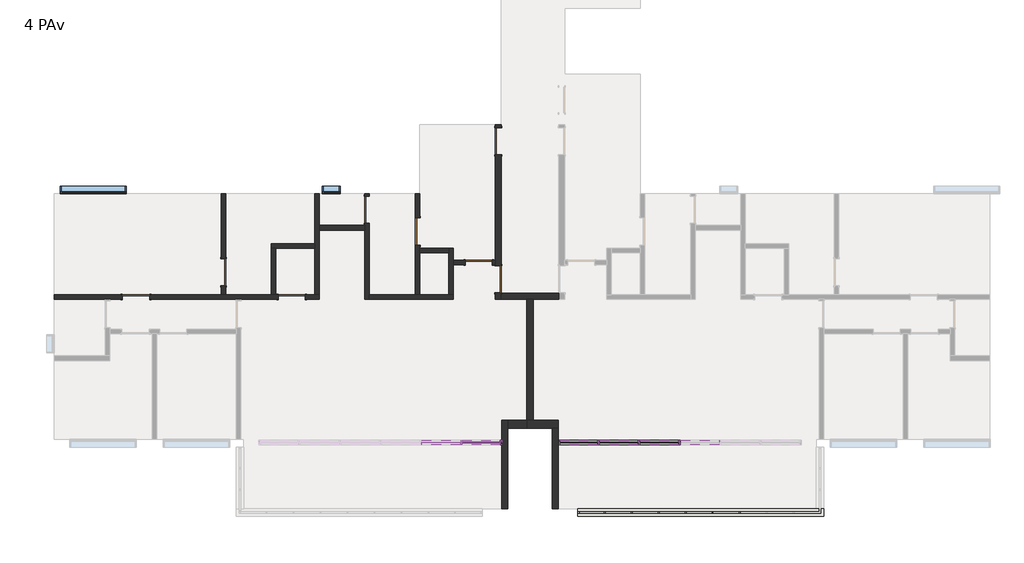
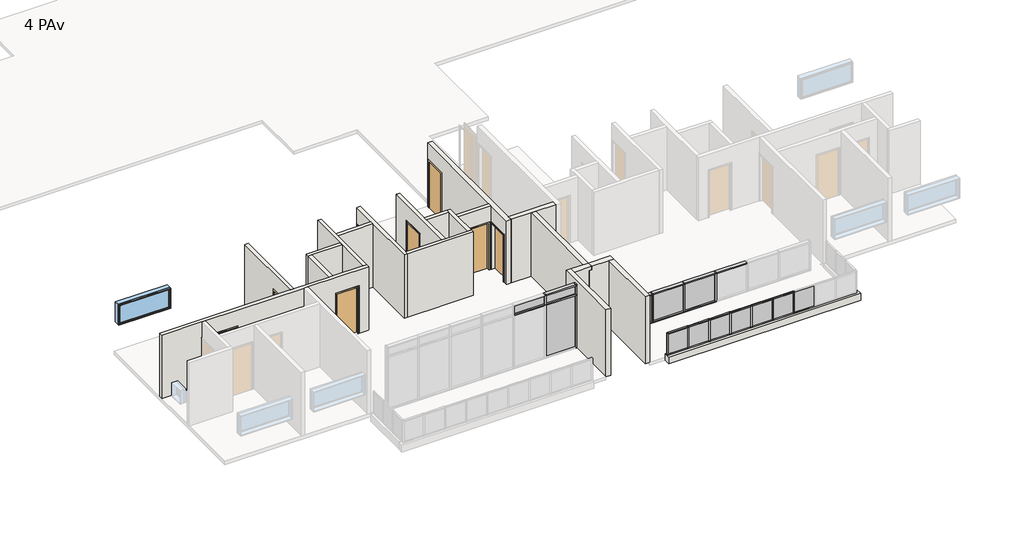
# One storey, part 2 of 6: 37 members, 20 walls, 13 plates, 8 doors, 2 windows.
"""IFC4 building model written with IfcOpenShell, lengths in millimetres."""

from ifc_helpers import new_model, si_unit, frame, origin, place, context, project, spatial, polyline, outline, extrude, faceted_brep, transform, mapped, element, save
from components import door_90_x_210_2c83007d, door_90_x_210_ee935524, door_90_x_210_565370b3, montante_retangular_50_mm_quadrado_4acded50, montante_retangular_50_mm_quadrado_237d7072, montante_retangular_50_mm_quadrado_84e40a56, montante_retangular_50_mm_quadrado_3d152aff, montante_retangular_50_x_150_mm_6217edde, montante_retangular_50_x_150_mm_a22249d7, montante_retangular_50_x_150_mm_567eccab, montante_retangular_50_x_150_mm_1ca2bba2, montante_retangular_50_x_150_mm_6abf4531, montante_retangular_50_x_150_mm_662c37b1, montante_retangular_50_x_150_mm_0a8c3443, montante_retangular_50_x_150_mm_d0db7fae, montante_retangular_50_x_150_mm_1e3c48d4, painel_do_sistema_57ceaf50, painel_do_sistema_ab0ed719, painel_do_sistema_1ecb5f42, painel_do_sistema_5ea5287b, painel_do_sistema_7730abee, painel_do_sistema_7de0e0b4, painel_do_sistema_09324d20, window_0610_x_0610_mm_da1d4716, window_220_x_90_cea65aae

model = new_model("IFC4")

# Units and contexts
model_context = context("Model", 3, world=origin())
ifc_project = project(units=[si_unit("LENGTHUNIT", "METRE", prefix="MILLI")], contexts=[model_context])

# Site, building, storey
site = spatial("IfcSite", under=ifc_project)
building = spatial("IfcBuilding", under=site)
storey = spatial("IfcBuildingStorey", under=building, Name="4 PAv", Elevation=12000.0)

# Doors
placement = place(None, origin())
door_90_x_210_shape = door_90_x_210_2c83007d(model_context)
element("IfcDoor", 1, ObjectType="M_Descarga simples : 90 x 210", at=placement, inside=storey, context=model_context, shape_type="MappedRepresentation", body=[
    mapped(door_90_x_210_shape, transform((-2076.2265742, -2546.3385375, 12000.0), x_axis=(0.0, 1.0, 0.0), y_axis=(-1.0, 0.0, 0.0), z_axis=(0.0, 0.0, 1.0))),
])
element("IfcDoor", 2, ObjectType="M_Descarga simples : 90 x 210", at=placement, inside=storey, context=model_context, shape_type="MappedRepresentation", body=[
    mapped(door_90_x_210_shape, transform((-2076.2265742, -7125.9292512, 12000.0), x_axis=(0.0, -1.0, 0.0), y_axis=(1.0, 0.0, 0.0), z_axis=(0.0, 0.0, 1.0))),
])
door_90_x_210_2_shape = door_90_x_210_ee935524(model_context)
element("IfcDoor", 3, ObjectType="M_Descarga simples : 90 x 210", at=placement, inside=storey, context=model_context, shape_type="MappedRepresentation", body=[
    mapped(door_90_x_210_2_shape, transform((-2726.2265742, -6571.3385375, 12000.0), x_axis=(1.0, 0.0, 0.0), y_axis=(0.0, 1.0, 0.0), z_axis=(0.0, 0.0, 1.0))),
])
element("IfcDoor", 4, ObjectType="M_Descarga simples : 90 x 210", at=placement, inside=storey, context=model_context, shape_type="MappedRepresentation", body=[
    mapped(door_90_x_210_2_shape, transform((-4751.2265742, -5536.3385375, 12000.0), x_axis=(0.0, 1.0, 0.0), y_axis=(-1.0, 0.0, 0.0), z_axis=(0.0, 0.0, 1.0))),
])
element("IfcDoor", 5, ObjectType="M_Descarga simples : 90 x 210", at=placement, inside=storey, context=model_context, shape_type="MappedRepresentation", body=[
    mapped(door_90_x_210_2_shape, transform((-6441.2265742, -4811.3385375, 12000.0), x_axis=(0.0, 1.0, 0.0), y_axis=(-1.0, 0.0, 0.0), z_axis=(0.0, 0.0, 1.0))),
])
element("IfcDoor", 6, ObjectType="M_Descarga simples : 90 x 210", at=placement, inside=storey, context=model_context, shape_type="MappedRepresentation", body=[
    mapped(door_90_x_210_2_shape, transform((-11191.2265742, -6886.3385375, 12000.0), x_axis=(0.0, -1.0, 0.0), y_axis=(1.0, 0.0, 0.0), z_axis=(0.0, 0.0, 1.0))),
])
door_90_x_210_3_shape = door_90_x_210_565370b3(model_context)
element("IfcDoor", 7, ObjectType="M_Descarga simples : 90 x 210", at=placement, inside=storey, context=model_context, shape_type="MappedRepresentation", body=[
    mapped(door_90_x_210_3_shape, transform((-14096.2265742, -7711.3385375, 12000.0), x_axis=(-1.0, 0.0, 0.0), y_axis=(0.0, -1.0, 0.0), z_axis=(0.0, 0.0, 1.0))),
])
element("IfcDoor", 8, ObjectType="M_Descarga simples : 90 x 210", at=placement, inside=storey, context=model_context, shape_type="MappedRepresentation", body=[
    mapped(door_90_x_210_3_shape, transform((-8936.2265742, -7711.3385375, 12000.0), x_axis=(-1.0, 0.0, 0.0), y_axis=(0.0, -1.0, 0.0), z_axis=(0.0, 0.0, 1.0))),
])

# Members
montante_retangular_50_mm_quadrado_shape = montante_retangular_50_mm_quadrado_4acded50(model_context)
element("IfcMember", 9, ObjectType="Montante retangular : 50 mm Quadrado", at=placement, inside=storey, context=model_context, shape_type="MappedRepresentation", body=[
    mapped(montante_retangular_50_mm_quadrado_shape, transform((1428.7734258, -14856.3385375, 13150.0), x_axis=(0.0, 0.0, 1.0), y_axis=(0.0, -1.0, 0.0), z_axis=(1.0, 0.0, 0.0))),
])
montante_retangular_50_mm_quadrado_2_shape = montante_retangular_50_mm_quadrado_237d7072(model_context)
element("IfcMember", 10, ObjectType="Montante retangular : 50 mm Quadrado", at=placement, inside=storey, context=model_context, shape_type="MappedRepresentation", body=[
    mapped(montante_retangular_50_mm_quadrado_2_shape, transform((2323.7734258, -14856.3385375, 13150.0), x_axis=(0.0, 0.0, 1.0), y_axis=(0.0, -1.0, 0.0), z_axis=(1.0, 0.0, 0.0))),
])
element("IfcMember", 11, ObjectType="Montante retangular : 50 mm Quadrado", at=placement, inside=storey, context=model_context, shape_type="MappedRepresentation", body=[
    mapped(montante_retangular_50_mm_quadrado_2_shape, transform((3218.7734258, -14856.3385375, 13150.0), x_axis=(0.0, 0.0, 1.0), y_axis=(0.0, -1.0, 0.0), z_axis=(1.0, 0.0, 0.0))),
])
element("IfcMember", 12, ObjectType="Montante retangular : 50 mm Quadrado", at=placement, inside=storey, context=model_context, shape_type="MappedRepresentation", body=[
    mapped(montante_retangular_50_mm_quadrado_2_shape, transform((4113.7734258, -14856.3385375, 13150.0), x_axis=(0.0, 0.0, 1.0), y_axis=(0.0, -1.0, 0.0), z_axis=(1.0, 0.0, 0.0))),
])
element("IfcMember", 13, ObjectType="Montante retangular : 50 mm Quadrado", at=placement, inside=storey, context=model_context, shape_type="MappedRepresentation", body=[
    mapped(montante_retangular_50_mm_quadrado_2_shape, transform((5008.7734258, -14856.3385375, 13150.0), x_axis=(0.0, 0.0, 1.0), y_axis=(0.0, -1.0, 0.0), z_axis=(1.0, 0.0, 0.0))),
])
element("IfcMember", 14, ObjectType="Montante retangular : 50 mm Quadrado", at=placement, inside=storey, context=model_context, shape_type="MappedRepresentation", body=[
    mapped(montante_retangular_50_mm_quadrado_2_shape, transform((5903.7734258, -14856.3385375, 13150.0), x_axis=(0.0, 0.0, 1.0), y_axis=(0.0, -1.0, 0.0), z_axis=(1.0, 0.0, 0.0))),
])
element("IfcMember", 15, ObjectType="Montante retangular : 50 mm Quadrado", at=placement, inside=storey, context=model_context, shape_type="MappedRepresentation", body=[
    mapped(montante_retangular_50_mm_quadrado_shape, transform((608.7734258, -14856.3385375, 12150.0), x_axis=(0.0, 0.0, -1.0), y_axis=(0.0, -1.0, 0.0), z_axis=(-1.0, 0.0, 0.0))),
])
element("IfcMember", 16, ObjectType="Montante retangular : 50 mm Quadrado", at=placement, inside=storey, context=model_context, shape_type="MappedRepresentation", body=[
    mapped(montante_retangular_50_mm_quadrado_2_shape, transform((1478.7734258, -14856.3385375, 12150.0), x_axis=(0.0, 0.0, -1.0), y_axis=(0.0, -1.0, 0.0), z_axis=(-1.0, 0.0, 0.0))),
])
element("IfcMember", 17, ObjectType="Montante retangular : 50 mm Quadrado", at=placement, inside=storey, context=model_context, shape_type="MappedRepresentation", body=[
    mapped(montante_retangular_50_mm_quadrado_2_shape, transform((2373.7734258, -14856.3385375, 12150.0), x_axis=(0.0, 0.0, -1.0), y_axis=(0.0, -1.0, 0.0), z_axis=(-1.0, 0.0, 0.0))),
])
element("IfcMember", 18, ObjectType="Montante retangular : 50 mm Quadrado", at=placement, inside=storey, context=model_context, shape_type="MappedRepresentation", body=[
    mapped(montante_retangular_50_mm_quadrado_2_shape, transform((3268.7734258, -14856.3385375, 12150.0), x_axis=(0.0, 0.0, -1.0), y_axis=(0.0, -1.0, 0.0), z_axis=(-1.0, 0.0, 0.0))),
])
element("IfcMember", 19, ObjectType="Montante retangular : 50 mm Quadrado", at=placement, inside=storey, context=model_context, shape_type="MappedRepresentation", body=[
    mapped(montante_retangular_50_mm_quadrado_2_shape, transform((4163.7734258, -14856.3385375, 12150.0), x_axis=(0.0, 0.0, -1.0), y_axis=(0.0, -1.0, 0.0), z_axis=(-1.0, 0.0, 0.0))),
])
element("IfcMember", 20, ObjectType="Montante retangular : 50 mm Quadrado", at=placement, inside=storey, context=model_context, shape_type="MappedRepresentation", body=[
    mapped(montante_retangular_50_mm_quadrado_2_shape, transform((5058.7734258, -14856.3385375, 12150.0), x_axis=(0.0, 0.0, -1.0), y_axis=(0.0, -1.0, 0.0), z_axis=(-1.0, 0.0, 0.0))),
])
element("IfcMember", 21, ObjectType="Montante retangular : 50 mm Quadrado", at=placement, inside=storey, context=model_context, shape_type="MappedRepresentation", body=[
    mapped(montante_retangular_50_mm_quadrado_2_shape, transform((5953.7734258, -14856.3385375, 12150.0), x_axis=(0.0, 0.0, -1.0), y_axis=(0.0, -1.0, 0.0), z_axis=(-1.0, 0.0, 0.0))),
])
montante_retangular_50_mm_quadrado_3_shape = montante_retangular_50_mm_quadrado_84e40a56(model_context)
element("IfcMember", 22, ObjectType="Montante retangular : 50 mm Quadrado", at=placement, inside=storey, context=model_context, shape_type="MappedRepresentation", body=[
    mapped(montante_retangular_50_mm_quadrado_3_shape, transform((1453.7734258, -14856.3385375, 12150.0), x_axis=(1.0, 0.0, 0.0), y_axis=(0.0, -1.0, 0.0), z_axis=(0.0, 0.0, -1.0))),
])
element("IfcMember", 23, ObjectType="Montante retangular : 50 mm Quadrado", at=placement, inside=storey, context=model_context, shape_type="MappedRepresentation", body=[
    mapped(montante_retangular_50_mm_quadrado_3_shape, transform((2348.7734258, -14856.3385375, 12150.0), x_axis=(1.0, 0.0, 0.0), y_axis=(0.0, -1.0, 0.0), z_axis=(0.0, 0.0, -1.0))),
])
element("IfcMember", 24, ObjectType="Montante retangular : 50 mm Quadrado", at=placement, inside=storey, context=model_context, shape_type="MappedRepresentation", body=[
    mapped(montante_retangular_50_mm_quadrado_3_shape, transform((3243.7734258, -14856.3385375, 12150.0), x_axis=(1.0, 0.0, 0.0), y_axis=(0.0, -1.0, 0.0), z_axis=(0.0, 0.0, -1.0))),
])
element("IfcMember", 25, ObjectType="Montante retangular : 50 mm Quadrado", at=placement, inside=storey, context=model_context, shape_type="MappedRepresentation", body=[
    mapped(montante_retangular_50_mm_quadrado_3_shape, transform((4138.7734258, -14856.3385375, 12150.0), x_axis=(1.0, 0.0, 0.0), y_axis=(0.0, -1.0, 0.0), z_axis=(0.0, 0.0, -1.0))),
])
element("IfcMember", 26, ObjectType="Montante retangular : 50 mm Quadrado", at=placement, inside=storey, context=model_context, shape_type="MappedRepresentation", body=[
    mapped(montante_retangular_50_mm_quadrado_3_shape, transform((5033.7734258, -14856.3385375, 12150.0), x_axis=(1.0, 0.0, 0.0), y_axis=(0.0, -1.0, 0.0), z_axis=(0.0, 0.0, -1.0))),
])
element("IfcMember", 27, ObjectType="Montante retangular : 50 mm Quadrado", at=placement, inside=storey, context=model_context, shape_type="MappedRepresentation", body=[
    mapped(montante_retangular_50_mm_quadrado_3_shape, transform((5928.7734258, -14856.3385375, 12150.0), x_axis=(1.0, 0.0, 0.0), y_axis=(0.0, -1.0, 0.0), z_axis=(0.0, 0.0, -1.0))),
])
montante_retangular_50_mm_quadrado_4_shape = montante_retangular_50_mm_quadrado_3d152aff(model_context)
element("IfcMember", 28, ObjectType="Montante retangular : 50 mm Quadrado", at=placement, inside=storey, context=model_context, shape_type="MappedRepresentation", body=[
    mapped(montante_retangular_50_mm_quadrado_4_shape, transform((558.7734258, -14856.3385375, 13150.0), x_axis=(-1.0, 0.0, 0.0), y_axis=(0.0, -1.0, 0.0), z_axis=(0.0, 0.0, 1.0))),
])
montante_retangular_50_x_150_mm_shape = montante_retangular_50_x_150_mm_6217edde(model_context)
element("IfcMember", 29, ObjectType="Montante retangular : 50 x 150 mm", at=placement, inside=storey, context=model_context, shape_type="MappedRepresentation", body=[
    mapped(montante_retangular_50_x_150_mm_shape, transform((-2011.2265742, -12536.3385375, 14850.0), x_axis=(0.0, 0.0, 1.0), y_axis=(0.0, -1.0, 0.0), z_axis=(1.0, 0.0, 0.0))),
])
element("IfcMember", 30, ObjectType="Montante retangular : 50 x 150 mm", at=placement, inside=storey, context=model_context, shape_type="MappedRepresentation", body=[
    mapped(montante_retangular_50_x_150_mm_shape, transform((-41.2265742, -12536.3385375, 13300.0), x_axis=(0.0, 0.0, 1.0), y_axis=(0.0, 1.0, 0.0), z_axis=(-1.0, 0.0, 0.0))),
])
montante_retangular_50_x_150_mm_2_shape = montante_retangular_50_x_150_mm_a22249d7(model_context)
element("IfcMember", 31, ObjectType="Montante retangular : 50 x 150 mm", at=placement, inside=storey, context=model_context, shape_type="MappedRepresentation", body=[
    mapped(montante_retangular_50_x_150_mm_2_shape, transform((3966.2734258, -12536.3385375, 13300.0), x_axis=(0.0, 0.0, 1.0), y_axis=(0.0, 1.0, 0.0), z_axis=(-1.0, 0.0, 0.0))),
])
element("IfcMember", 32, ObjectType="Montante retangular : 50 x 150 mm", at=placement, inside=storey, context=model_context, shape_type="MappedRepresentation", body=[
    mapped(montante_retangular_50_x_150_mm_2_shape, transform((2622.1067592, -12536.3385375, 13300.0), x_axis=(0.0, 0.0, 1.0), y_axis=(0.0, 1.0, 0.0), z_axis=(-1.0, 0.0, 0.0))),
])
element("IfcMember", 33, ObjectType="Montante retangular : 50 x 150 mm", at=placement, inside=storey, context=model_context, shape_type="MappedRepresentation", body=[
    mapped(montante_retangular_50_x_150_mm_2_shape, transform((1277.9400925, -12536.3385375, 13300.0), x_axis=(0.0, 0.0, 1.0), y_axis=(0.0, 1.0, 0.0), z_axis=(-1.0, 0.0, 0.0))),
])
element("IfcMember", 34, ObjectType="Montante retangular : 50 x 150 mm", at=placement, inside=storey, context=model_context, shape_type="MappedRepresentation", body=[
    mapped(montante_retangular_50_x_150_mm_shape, transform((1227.9400925, -12536.3385375, 12000.0), x_axis=(0.0, 0.0, -1.0), y_axis=(0.0, 1.0, 0.0), z_axis=(1.0, 0.0, 0.0))),
])
element("IfcMember", 35, ObjectType="Montante retangular : 50 x 150 mm", at=placement, inside=storey, context=model_context, shape_type="MappedRepresentation", body=[
    mapped(montante_retangular_50_x_150_mm_2_shape, transform((3916.2734258, -12536.3385375, 12000.0), x_axis=(0.0, 0.0, -1.0), y_axis=(0.0, 1.0, 0.0), z_axis=(1.0, 0.0, 0.0))),
])
element("IfcMember", 36, ObjectType="Montante retangular : 50 x 150 mm", at=placement, inside=storey, context=model_context, shape_type="MappedRepresentation", body=[
    mapped(montante_retangular_50_x_150_mm_2_shape, transform((2572.1067592, -12536.3385375, 12000.0), x_axis=(0.0, 0.0, -1.0), y_axis=(0.0, 1.0, 0.0), z_axis=(1.0, 0.0, 0.0))),
])
montante_retangular_50_x_150_mm_3_shape = montante_retangular_50_x_150_mm_567eccab(model_context)
element("IfcMember", 37, ObjectType="Montante retangular : 50 x 150 mm", at=placement, inside=storey, context=model_context, shape_type="MappedRepresentation", body=[
    mapped(montante_retangular_50_x_150_mm_3_shape, transform((-3305.3932408, -12536.3385375, 14400.0), x_axis=(1.0, 0.0, 0.0), y_axis=(0.0, -1.0, 0.0), z_axis=(0.0, 0.0, -1.0))),
])
montante_retangular_50_x_150_mm_4_shape = montante_retangular_50_x_150_mm_1ca2bba2(model_context)
element("IfcMember", 38, ObjectType="Montante retangular : 50 x 150 mm", at=placement, inside=storey, context=model_context, shape_type="MappedRepresentation", body=[
    mapped(montante_retangular_50_x_150_mm_4_shape, transform((-2011.2265742, -12536.3385375, 14400.0), x_axis=(0.0, 0.0, 1.0), y_axis=(0.0, -1.0, 0.0), z_axis=(1.0, 0.0, 0.0))),
])
montante_retangular_50_x_150_mm_5_shape = montante_retangular_50_x_150_mm_6abf4531(model_context)
element("IfcMember", 39, ObjectType="Montante retangular : 50 x 150 mm", at=placement, inside=storey, context=model_context, shape_type="MappedRepresentation", body=[
    mapped(montante_retangular_50_x_150_mm_5_shape, transform((-3330.3932408, -12536.3385375, 14400.0), x_axis=(0.0, 0.0, 1.0), y_axis=(0.0, -1.0, 0.0), z_axis=(1.0, 0.0, 0.0))),
])
montante_retangular_50_x_150_mm_6_shape = montante_retangular_50_x_150_mm_662c37b1(model_context)
element("IfcMember", 40, ObjectType="Montante retangular : 50 x 150 mm", at=placement, inside=storey, context=model_context, shape_type="MappedRepresentation", body=[
    mapped(montante_retangular_50_x_150_mm_6_shape, transform((-1961.2265742, -12536.3385375, 12000.0), x_axis=(1.0, 0.0, 0.0), y_axis=(0.0, -1.0, 0.0), z_axis=(0.0, 0.0, -1.0))),
])
montante_retangular_50_x_150_mm_7_shape = montante_retangular_50_x_150_mm_0a8c3443(model_context)
element("IfcMember", 41, ObjectType="Montante retangular : 50 x 150 mm", at=placement, inside=storey, context=model_context, shape_type="MappedRepresentation", body=[
    mapped(montante_retangular_50_x_150_mm_7_shape, transform((-1961.2265742, -12536.3385375, 14400.0), x_axis=(1.0, 0.0, 0.0), y_axis=(0.0, -1.0, 0.0), z_axis=(0.0, 0.0, -1.0))),
])
montante_retangular_50_x_150_mm_8_shape = montante_retangular_50_x_150_mm_d0db7fae(model_context)
element("IfcMember", 42, ObjectType="Montante retangular : 50 x 150 mm", at=placement, inside=storey, context=model_context, shape_type="MappedRepresentation", body=[
    mapped(montante_retangular_50_x_150_mm_8_shape, transform((3941.2734258, -12536.3385375, 12000.0), x_axis=(-1.0, 0.0, 0.0), y_axis=(0.0, 1.0, 0.0), z_axis=(0.0, 0.0, -1.0))),
])
element("IfcMember", 43, ObjectType="Montante retangular : 50 x 150 mm", at=placement, inside=storey, context=model_context, shape_type="MappedRepresentation", body=[
    mapped(montante_retangular_50_x_150_mm_8_shape, transform((2597.1067592, -12536.3385375, 12000.0), x_axis=(-1.0, 0.0, 0.0), y_axis=(0.0, 1.0, 0.0), z_axis=(0.0, 0.0, -1.0))),
])
element("IfcMember", 44, ObjectType="Montante retangular : 50 x 150 mm", at=placement, inside=storey, context=model_context, shape_type="MappedRepresentation", body=[
    mapped(montante_retangular_50_x_150_mm_8_shape, transform((1252.9400925, -12536.3385375, 12000.0), x_axis=(-1.0, 0.0, 0.0), y_axis=(0.0, 1.0, 0.0), z_axis=(0.0, 0.0, -1.0))),
])
montante_retangular_50_x_150_mm_9_shape = montante_retangular_50_x_150_mm_1e3c48d4(model_context)
element("IfcMember", 45, ObjectType="Montante retangular : 50 x 150 mm", at=placement, inside=storey, context=model_context, shape_type="MappedRepresentation", body=[
    mapped(montante_retangular_50_x_150_mm_9_shape, transform((-91.2265742, -12536.3385375, 12000.0), x_axis=(-1.0, 0.0, 0.0), y_axis=(0.0, 1.0, 0.0), z_axis=(0.0, 0.0, -1.0))),
])

# Plates
painel_do_sistema_shape = painel_do_sistema_57ceaf50(model_context)
element("IfcPlate", 46, ObjectType="Painel do sistema : Envidraçado", at=placement, inside=storey, context=model_context, shape_type="MappedRepresentation", body=[
    mapped(painel_do_sistema_shape, transform((1018.7734258, -14856.3385375, 12200.0), x_axis=(1.0, 0.0, 0.0), y_axis=(0.0, 1.0, 0.0), z_axis=(0.0, 0.0, 1.0))),
])
painel_do_sistema_2_shape = painel_do_sistema_ab0ed719(model_context)
element("IfcPlate", 47, ObjectType="Painel do sistema : Envidraçado", at=placement, inside=storey, context=model_context, shape_type="MappedRepresentation", body=[
    mapped(painel_do_sistema_2_shape, transform((1901.2734258, -14856.3385375, 12200.0), x_axis=(1.0, 0.0, 0.0), y_axis=(0.0, 1.0, 0.0), z_axis=(0.0, 0.0, 1.0))),
])
element("IfcPlate", 48, ObjectType="Painel do sistema : Envidraçado", at=placement, inside=storey, context=model_context, shape_type="MappedRepresentation", body=[
    mapped(painel_do_sistema_2_shape, transform((2796.2734258, -14856.3385375, 12200.0), x_axis=(1.0, 0.0, 0.0), y_axis=(0.0, 1.0, 0.0), z_axis=(0.0, 0.0, 1.0))),
])
element("IfcPlate", 49, ObjectType="Painel do sistema : Envidraçado", at=placement, inside=storey, context=model_context, shape_type="MappedRepresentation", body=[
    mapped(painel_do_sistema_2_shape, transform((3691.2734258, -14856.3385375, 12200.0), x_axis=(1.0, 0.0, 0.0), y_axis=(0.0, 1.0, 0.0), z_axis=(0.0, 0.0, 1.0))),
])
element("IfcPlate", 50, ObjectType="Painel do sistema : Envidraçado", at=placement, inside=storey, context=model_context, shape_type="MappedRepresentation", body=[
    mapped(painel_do_sistema_2_shape, transform((4586.2734258, -14856.3385375, 12200.0), x_axis=(1.0, 0.0, 0.0), y_axis=(0.0, 1.0, 0.0), z_axis=(0.0, 0.0, 1.0))),
])
element("IfcPlate", 51, ObjectType="Painel do sistema : Envidraçado", at=placement, inside=storey, context=model_context, shape_type="MappedRepresentation", body=[
    mapped(painel_do_sistema_2_shape, transform((5481.2734258, -14856.3385375, 12200.0), x_axis=(1.0, 0.0, 0.0), y_axis=(0.0, 1.0, 0.0), z_axis=(0.0, 0.0, 1.0))),
])
element("IfcPlate", 52, ObjectType="Painel do sistema : Envidraçado", at=placement, inside=storey, context=model_context, shape_type="MappedRepresentation", body=[
    mapped(painel_do_sistema_2_shape, transform((6376.2734258, -14856.3385375, 12200.0), x_axis=(1.0, 0.0, 0.0), y_axis=(0.0, 1.0, 0.0), z_axis=(0.0, 0.0, 1.0))),
])
painel_do_sistema_3_shape = painel_do_sistema_1ecb5f42(model_context)
element("IfcPlate", 53, ObjectType="Painel do sistema : Envidraçado", at=placement, inside=storey, context=model_context, shape_type="MappedRepresentation", body=[
    mapped(painel_do_sistema_3_shape, transform((-2645.8099075, -12536.3385375, 12050.0), x_axis=(1.0, 0.0, 0.0), y_axis=(0.0, 1.0, 0.0), z_axis=(0.0, 0.0, 1.0))),
])
painel_do_sistema_4_shape = painel_do_sistema_5ea5287b(model_context)
element("IfcPlate", 54, ObjectType="Painel do sistema : Envidraçado", at=placement, inside=storey, context=model_context, shape_type="MappedRepresentation", body=[
    mapped(painel_do_sistema_4_shape, transform((-2645.8099075, -12536.3385375, 14425.0), x_axis=(1.0, 0.0, 0.0), y_axis=(0.0, 1.0, 0.0), z_axis=(0.0, 0.0, 1.0))),
])
painel_do_sistema_5_shape = painel_do_sistema_7730abee(model_context)
element("IfcPlate", 55, ObjectType="Painel do sistema : Envidraçado", at=placement, inside=storey, context=model_context, shape_type="MappedRepresentation", body=[
    mapped(painel_do_sistema_5_shape, transform((-3977.4765742, -12536.3385375, 14425.0), x_axis=(1.0, 0.0, 0.0), y_axis=(0.0, 1.0, 0.0), z_axis=(0.0, 0.0, 1.0))),
])
painel_do_sistema_6_shape = painel_do_sistema_7de0e0b4(model_context)
element("IfcPlate", 56, ObjectType="Painel do sistema : Envidraçado", at=placement, inside=storey, context=model_context, shape_type="MappedRepresentation", body=[
    mapped(painel_do_sistema_6_shape, transform((593.3567592, -12536.3385375, 12050.0), x_axis=(-1.0, 0.0, 0.0), y_axis=(0.0, -1.0, 0.0), z_axis=(0.0, 0.0, 1.0))),
])
painel_do_sistema_7_shape = painel_do_sistema_09324d20(model_context)
element("IfcPlate", 57, ObjectType="Painel do sistema : Envidraçado", at=placement, inside=storey, context=model_context, shape_type="MappedRepresentation", body=[
    mapped(painel_do_sistema_7_shape, transform((3269.1900925, -12536.3385375, 12050.0), x_axis=(-1.0, 0.0, 0.0), y_axis=(0.0, -1.0, 0.0), z_axis=(0.0, 0.0, 1.0))),
])
element("IfcPlate", 58, ObjectType="Painel do sistema : Envidraçado", at=placement, inside=storey, context=model_context, shape_type="MappedRepresentation", body=[
    mapped(painel_do_sistema_7_shape, transform((1925.0234258, -12536.3385375, 12050.0), x_axis=(-1.0, 0.0, 0.0), y_axis=(0.0, -1.0, 0.0), z_axis=(0.0, 0.0, 1.0))),
])

# Walls
element("IfcWall", 59, ObjectType="Exeterna 25", at=placement, inside=storey, context=model_context, shape_type="Brep", body=[
    faceted_brep([(558.7734258, -14981.3385375, 11850.0), (8713.7734258, -14981.3385375, 11850.0), (8713.7734258, -14981.3385375, 12150.0), (558.7734258, -14981.3385375, 12150.0), (558.7734258, -14731.3385375, 11850.0), (558.7734258, -14731.3385375, 12150.0), (8463.7734258, -14731.3385375, 12150.0), (8713.7734258, -14731.3385375, 12150.0), (8713.7734258, -14731.3385375, 11850.0), (8463.7734258, -14731.3385375, 11850.0)], [[[0, 1, 2, 3]], [[4, 5, 6, 7, 8, 9]], [[1, 0, 4, 9, 8]], [[3, 2, 7, 6, 5]], [[0, 3, 5, 4]], [[2, 1, 8, 7]]]),
])
element("IfcWall", 60, ObjectType="Exeterna 25", at=placement, inside=storey, context=model_context, shape_type="Brep", body=[
    faceted_brep([(-1126.2265742, -12056.3385375, 12000.0), (-291.2265742, -12056.3385375, 12000.0), (-91.2265742, -12056.3385375, 12000.0), (-91.2265742, -12056.3385375, 15000.0), (-291.2265742, -12056.3385375, 15000.0), (-1026.2265742, -12056.3385375, 15000.0), (-1026.2265742, -12056.3385375, 14850.0), (-1126.2265742, -12056.3385375, 14850.0), (-1126.2265742, -11806.3385375, 12000.0), (-1126.2265742, -11806.3385375, 14850.0), (-1026.2265742, -11806.3385375, 14850.0), (-1026.2265742, -11806.3385375, 15000.0), (-91.2265742, -11806.3385375, 15000.0), (-91.2265742, -11806.3385375, 12000.0), (-926.2265742, -11806.3385375, 12000.0)], [[[0, 1, 2, 3, 4, 5, 6, 7]], [[8, 9, 10, 11, 12, 13, 14]], [[2, 1, 0, 8, 14, 13]], [[5, 4, 3, 12, 11]], [[3, 2, 13, 12]], [[6, 5, 11, 10]], [[6, 10, 9, 7]], [[0, 7, 9, 8]]]),
])
element("IfcWall", 61, ObjectType="Exeterna 25", at=placement, inside=storey, context=model_context, shape_type="SweptSolid", body=[
    extrude(outline(polyline([(12000.0, -1126.2265742), (14850.0, -1126.2265742), (14850.0, -1026.2265742), (15000.0, -1026.2265742), (15000.0, -1761.2265742), (12000.0, -1761.2265742), (12000.0, -1126.2265742)])), frame((0.0, -12056.3385375, 0.0), z_axis=(0.0, 1.0, 0.0), x_axis=(0.0, 0.0, 1.0)), (0.0, 0.0, 1.0), 250.0),
])
element("IfcWall", 62, ObjectType="Interna 15", at=placement, inside=storey, context=model_context, shape_type="Brep", body=[
    faceted_brep([(-13646.2265742, -7786.3385375, 12000.0), (-10766.2265742, -7786.3385375, 12000.0), (-10616.2265742, -7786.3385375, 12000.0), (-9386.2265742, -7786.3385375, 12000.0), (-9386.2265742, -7786.3385375, 14100.0), (-8486.2265742, -7786.3385375, 14100.0), (-8486.2265742, -7786.3385375, 12000.0), (-8016.2265742, -7786.3385375, 12000.0), (-8016.2265742, -7786.3385375, 14850.0), (-10616.2265742, -7786.3385375, 14850.0), (-10766.2265742, -7786.3385375, 14850.0), (-14966.2265742, -7786.3385375, 14850.0), (-15116.2265742, -7786.3385375, 14850.0), (-16816.2265742, -7786.3385375, 14850.0), (-16816.2265742, -7786.3385375, 12000.0), (-15116.2265742, -7786.3385375, 12000.0), (-14966.2265742, -7786.3385375, 12000.0), (-14546.2265742, -7786.3385375, 12000.0), (-14546.2265742, -7786.3385375, 14100.0), (-13646.2265742, -7786.3385375, 14100.0), (-9386.2265742, -7636.3385375, 14100.0), (-9386.2265742, -7636.3385375, 12000.0), (-9466.2265742, -7636.3385375, 12000.0), (-9616.2265742, -7636.3385375, 12000.0), (-11116.2265742, -7636.3385375, 12000.0), (-11266.2265742, -7636.3385375, 12000.0), (-13646.2265742, -7636.3385375, 12000.0), (-13646.2265742, -7636.3385375, 14100.0), (-14546.2265742, -7636.3385375, 14100.0), (-14546.2265742, -7636.3385375, 12000.0), (-16816.2265742, -7636.3385375, 12000.0), (-16816.2265742, -7636.3385375, 14850.0), (-11266.2265742, -7636.3385375, 14850.0), (-11116.2265742, -7636.3385375, 14850.0), (-9616.2265742, -7636.3385375, 14850.0), (-9466.2265742, -7636.3385375, 14850.0), (-8166.2265742, -7636.3385375, 14850.0), (-8016.2265742, -7636.3385375, 14850.0), (-8016.2265742, -7636.3385375, 12000.0), (-8166.2265742, -7636.3385375, 12000.0), (-8486.2265742, -7636.3385375, 12000.0), (-8486.2265742, -7636.3385375, 14100.0)], [[[0, 1, 2, 3, 4, 5, 6, 7, 8, 9, 10, 11, 12, 13, 14, 15, 16, 17, 18, 19]], [[20, 21, 22, 23, 24, 25, 26, 27, 28, 29, 30, 31, 32, 33, 34, 35, 36, 37, 38, 39, 40, 41]], [[30, 29, 17, 16, 15, 14]], [[40, 39, 38, 7, 6]], [[26, 25, 24, 23, 22, 21, 3, 2, 1, 0]], [[13, 12, 11, 10, 9, 8, 37, 36, 35, 34, 33, 32, 31]], [[8, 7, 38, 37]], [[18, 17, 29, 28]], [[19, 18, 28, 27]], [[0, 19, 27, 26]], [[4, 3, 21, 20]], [[5, 4, 20, 41]], [[6, 5, 41, 40]], [[14, 13, 31, 30]]]),
])
element("IfcWall", 63, ObjectType="Interna 15", at=placement, inside=storey, context=model_context, shape_type="Brep", body=[
    faceted_brep([(-8016.2265742, -7636.3385375, 12000.0), (-8016.2265742, -5486.3385375, 12000.0), (-8016.2265742, -5336.3385375, 12000.0), (-8016.2265742, -4286.3385375, 12000.0), (-8016.2265742, -4286.3385375, 14850.0), (-8016.2265742, -5336.3385375, 14850.0), (-8016.2265742, -5486.3385375, 14850.0), (-8016.2265742, -7636.3385375, 14850.0), (-8166.2265742, -7636.3385375, 12000.0), (-8166.2265742, -7636.3385375, 14850.0), (-8166.2265742, -6086.3385375, 14850.0), (-8166.2265742, -5936.3385375, 14850.0), (-8166.2265742, -4286.3385375, 14850.0), (-8166.2265742, -4286.3385375, 12000.0), (-8166.2265742, -5936.3385375, 12000.0), (-8166.2265742, -6086.3385375, 12000.0)], [[[0, 1, 2, 3, 4, 5, 6, 7]], [[8, 9, 10, 11, 12, 13, 14, 15]], [[3, 2, 1, 0, 8, 15, 14, 13]], [[7, 6, 5, 4, 12, 11, 10, 9]], [[0, 7, 9, 8]], [[4, 3, 13, 12]]]),
])
element("IfcWall", 64, ObjectType="Interna 15", at=placement, inside=storey, context=model_context, shape_type="Brep", body=[
    faceted_brep([(-8166.2265742, -5936.3385375, 12000.0), (-9616.2265742, -5936.3385375, 12000.0), (-9616.2265742, -5936.3385375, 14850.0), (-8166.2265742, -5936.3385375, 14850.0), (-8166.2265742, -6086.3385375, 12000.0), (-8166.2265742, -6086.3385375, 14850.0), (-9466.2265742, -6086.3385375, 14850.0), (-9616.2265742, -6086.3385375, 14850.0), (-9616.2265742, -6086.3385375, 12000.0), (-9466.2265742, -6086.3385375, 12000.0)], [[[0, 1, 2, 3]], [[4, 5, 6, 7, 8, 9]], [[1, 0, 4, 9, 8]], [[3, 2, 7, 6, 5]], [[0, 3, 5, 4]], [[2, 1, 8, 7]]]),
])
element("IfcWall", 65, ObjectType="Interna 15", at=placement, inside=storey, context=model_context, shape_type="SweptSolid", body=[
    extrude(outline(polyline([(-9616.2265742, -7636.3385375), (-9616.2265742, -6086.3385375), (-9466.2265742, -6086.3385375), (-9466.2265742, -7636.3385375), (-9616.2265742, -7636.3385375)])), frame((0.0, 0.0, 12000.0), z_axis=(0.0, 0.0, 1.0), x_axis=(1.0, 0.0, 0.0)), (0.0, 0.0, 1.0), 2850.0),
])
element("IfcWall", 66, ObjectType="Interna 15", at=placement, inside=storey, context=model_context, shape_type="SweptSolid", body=[
    extrude(outline(polyline([(-7336.3385375, 14100.0), (-7336.3385375, 12000.0), (-7636.3385375, 12000.0), (-7636.3385375, 14850.0), (-4286.3385375, 14850.0), (-4286.3385375, 12000.0), (-6436.3385375, 12000.0), (-6436.3385375, 14100.0), (-7336.3385375, 14100.0)])), frame((-11266.2265742, 0.0, 0.0), z_axis=(1.0, 0.0, 0.0), x_axis=(0.0, 1.0, 0.0)), (0.0, 0.0, 1.0), 150.0),
])
element("IfcWall", 67, ObjectType="Interna 15", at=placement, inside=storey, context=model_context, shape_type="SweptSolid", body=[
    extrude(outline(polyline([(-6516.2265742, -5486.3385375), (-8016.2265742, -5486.3385375), (-8016.2265742, -5336.3385375), (-6516.2265742, -5336.3385375), (-6516.2265742, -5486.3385375)])), frame((0.0, 0.0, 12000.0), z_axis=(0.0, 0.0, 1.0), x_axis=(1.0, 0.0, 0.0)), (0.0, 0.0, 1.0), 2850.0),
])
element("IfcWall", 68, ObjectType="Interna 15", at=placement, inside=storey, context=model_context, shape_type="Brep", body=[
    faceted_brep([(-6516.2265742, -4286.3385375, 12000.0), (-6516.2265742, -4361.3385375, 12000.0), (-6516.2265742, -4361.3385375, 14100.0), (-6516.2265742, -5261.3385375, 14100.0), (-6516.2265742, -5261.3385375, 12000.0), (-6516.2265742, -5336.3385375, 12000.0), (-6516.2265742, -5486.3385375, 12000.0), (-6516.2265742, -7786.3385375, 12000.0), (-6516.2265742, -7786.3385375, 14850.0), (-6516.2265742, -5486.3385375, 14850.0), (-6516.2265742, -5336.3385375, 14850.0), (-6516.2265742, -4286.3385375, 14850.0), (-6366.2265742, -4361.3385375, 14100.0), (-6366.2265742, -4361.3385375, 12000.0), (-6366.2265742, -4286.3385375, 12000.0), (-6366.2265742, -4286.3385375, 14850.0), (-6366.2265742, -7636.3385375, 14850.0), (-6366.2265742, -7786.3385375, 14850.0), (-6366.2265742, -7786.3385375, 12000.0), (-6366.2265742, -7636.3385375, 12000.0), (-6366.2265742, -5261.3385375, 12000.0), (-6366.2265742, -5261.3385375, 14100.0)], [[[0, 1, 2, 3, 4, 5, 6, 7, 8, 9, 10, 11]], [[12, 13, 14, 15, 16, 17, 18, 19, 20, 21]], [[14, 13, 1, 0]], [[20, 19, 18, 7, 6, 5, 4]], [[11, 10, 9, 8, 17, 16, 15]], [[8, 7, 18, 17]], [[2, 1, 13, 12]], [[3, 2, 12, 21]], [[4, 3, 21, 20]], [[0, 11, 15, 14]]]),
])
element("IfcWall", 69, ObjectType="Interna 15", at=placement, inside=storey, context=model_context, shape_type="Brep", body=[
    faceted_brep([(-6366.2265742, -7786.3385375, 12000.0), (-3576.2265742, -7786.3385375, 12000.0), (-3576.2265742, -7786.3385375, 14850.0), (-6366.2265742, -7786.3385375, 14850.0), (-6366.2265742, -7636.3385375, 12000.0), (-6366.2265742, -7636.3385375, 14850.0), (-4826.2265742, -7636.3385375, 14850.0), (-4676.2265742, -7636.3385375, 14850.0), (-3726.2265742, -7636.3385375, 14850.0), (-3576.2265742, -7636.3385375, 14850.0), (-3576.2265742, -7636.3385375, 12000.0), (-3726.2265742, -7636.3385375, 12000.0), (-4676.2265742, -7636.3385375, 12000.0), (-4826.2265742, -7636.3385375, 12000.0)], [[[0, 1, 2, 3]], [[4, 5, 6, 7, 8, 9, 10, 11, 12, 13]], [[1, 0, 4, 13, 12, 11, 10]], [[3, 2, 9, 8, 7, 6, 5]], [[0, 3, 5, 4]], [[2, 1, 10, 9]]]),
])
element("IfcWall", 70, ObjectType="Interna 15", at=placement, inside=storey, context=model_context, shape_type="Brep", body=[
    faceted_brep([(-4676.2265742, -5086.3385375, 14100.0), (-4676.2265742, -5086.3385375, 12000.0), (-4676.2265742, -4286.3385375, 12000.0), (-4676.2265742, -4286.3385375, 14850.0), (-4676.2265742, -6086.3385375, 14850.0), (-4676.2265742, -6236.3385375, 14850.0), (-4676.2265742, -7636.3385375, 14850.0), (-4676.2265742, -7636.3385375, 12000.0), (-4676.2265742, -6236.3385375, 12000.0), (-4676.2265742, -6086.3385375, 12000.0), (-4676.2265742, -5986.3385375, 12000.0), (-4676.2265742, -5986.3385375, 14100.0), (-4826.2265742, -4286.3385375, 12000.0), (-4826.2265742, -5086.3385375, 12000.0), (-4826.2265742, -5086.3385375, 14100.0), (-4826.2265742, -5986.3385375, 14100.0), (-4826.2265742, -5986.3385375, 12000.0), (-4826.2265742, -7636.3385375, 12000.0), (-4826.2265742, -7636.3385375, 14850.0), (-4826.2265742, -4286.3385375, 14850.0)], [[[0, 1, 2, 3, 4, 5, 6, 7, 8, 9, 10, 11]], [[12, 13, 14, 15, 16, 17, 18, 19]], [[2, 1, 13, 12]], [[10, 9, 8, 7, 17, 16]], [[6, 5, 4, 3, 19, 18]], [[7, 6, 18, 17]], [[14, 13, 1, 0]], [[15, 14, 0, 11]], [[16, 15, 11, 10]], [[3, 2, 12, 19]]]),
])
element("IfcWall", 71, ObjectType="Interna 15", at=placement, inside=storey, context=model_context, shape_type="Brep", body=[
    faceted_brep([(-3576.2265742, -7636.3385375, 12000.0), (-3576.2265742, -6646.3385375, 12000.0), (-3576.2265742, -6496.3385375, 12000.0), (-3576.2265742, -6086.3385375, 12000.0), (-3576.2265742, -6086.3385375, 14850.0), (-3576.2265742, -6496.3385375, 14850.0), (-3576.2265742, -6646.3385375, 14850.0), (-3576.2265742, -7636.3385375, 14850.0), (-3726.2265742, -7636.3385375, 12000.0), (-3726.2265742, -7636.3385375, 14850.0), (-3726.2265742, -6236.3385375, 14850.0), (-3726.2265742, -6086.3385375, 14850.0), (-3726.2265742, -6086.3385375, 12000.0), (-3726.2265742, -6236.3385375, 12000.0)], [[[0, 1, 2, 3, 4, 5, 6, 7]], [[8, 9, 10, 11, 12, 13]], [[3, 2, 1, 0, 8, 13, 12]], [[7, 6, 5, 4, 11, 10, 9]], [[4, 3, 12, 11]], [[0, 7, 9, 8]]]),
])
element("IfcWall", 72, ObjectType="Interna 15", at=placement, inside=storey, context=model_context, shape_type="SweptSolid", body=[
    extrude(outline(polyline([(-4676.2265742, -6086.3385375), (-3726.2265742, -6086.3385375), (-3726.2265742, -6236.3385375), (-4676.2265742, -6236.3385375), (-4676.2265742, -6086.3385375)])), frame((0.0, 0.0, 12000.0), z_axis=(0.0, 0.0, 1.0), x_axis=(1.0, 0.0, 0.0)), (0.0, 0.0, 1.0), 2850.0),
])
element("IfcWall", 73, ObjectType="Interna 15", at=placement, inside=storey, context=model_context, shape_type="SweptSolid", body=[
    extrude(outline(polyline([(14100.0, -2276.2265742), (12000.0, -2276.2265742), (12000.0, -2176.2265742), (14850.0, -2176.2265742), (14850.0, -3576.2265742), (12000.0, -3576.2265742), (12000.0, -3176.2265742), (14100.0, -3176.2265742), (14100.0, -2276.2265742)])), frame((0.0, -6646.3385375, 0.0), z_axis=(0.0, 1.0, 0.0), x_axis=(0.0, 0.0, 1.0)), (0.0, 0.0, 1.0), 150.0),
])
element("IfcWall", 74, ObjectType="Interna 20", at=placement, inside=storey, context=model_context, shape_type="Brep", body=[
    faceted_brep([(-1126.2265742, -7786.3385375, 12000.0), (-1126.2265742, -11806.3385375, 12000.0), (-1126.2265742, -11806.3385375, 14850.0), (-1126.2265742, -7786.3385375, 14850.0), (-926.2265742, -7786.3385375, 12000.0), (-926.2265742, -7786.3385375, 14850.0), (-926.2265742, -11806.3385375, 14850.0), (-926.2265742, -11806.3385375, 12000.0), (-1026.2265742, -11806.3385375, 14850.0)], [[[0, 1, 2, 3]], [[4, 5, 6, 7]], [[1, 0, 4, 7]], [[3, 2, 8, 6, 5]], [[0, 3, 5, 4]], [[2, 1, 7, 6, 8]]]),
])
element("IfcWall", 75, ObjectType="Interna 20", at=placement, inside=storey, context=model_context, shape_type="Brep", body=[
    faceted_brep([(-76.2265742, -7586.3385375, 12000.0), (-1976.2265742, -7586.3385375, 12000.0), (-1976.2265742, -7586.3385375, 14850.0), (-76.2265742, -7586.3385375, 14850.0), (-76.2265742, -7786.3385375, 12000.0), (-76.2265742, -7786.3385375, 14850.0), (-926.2265742, -7786.3385375, 14850.0), (-1126.2265742, -7786.3385375, 14850.0), (-1976.2265742, -7786.3385375, 14850.0), (-1976.2265742, -7786.3385375, 12000.0), (-1126.2265742, -7786.3385375, 12000.0), (-926.2265742, -7786.3385375, 12000.0)], [[[0, 1, 2, 3]], [[4, 5, 6, 7, 8, 9, 10, 11]], [[1, 0, 4, 11, 10, 9]], [[3, 2, 8, 7, 6, 5]], [[0, 3, 5, 4]], [[2, 1, 9, 8]]]),
])
element("IfcWall", 76, ObjectType="Interna 20", at=placement, inside=storey, context=model_context, shape_type="SweptSolid", body=[
    extrude(outline(polyline([(-291.2265742, -14731.3385375), (-291.2265742, -12056.3385375), (-91.2265742, -12056.3385375), (-91.2265742, -14731.3385375), (-291.2265742, -14731.3385375)])), frame((0.0, 0.0, 12000.0), z_axis=(0.0, 0.0, 1.0), x_axis=(1.0, 0.0, 0.0)), (0.0, 0.0, 1.0), 3000.0),
])
element("IfcWall", 77, ObjectType="Interna 20", at=placement, inside=storey, context=model_context, shape_type="Brep", body=[
    faceted_brep([(-1961.2265742, -11806.3385375, 12000.0), (-1961.2265742, -14731.3385375, 12000.0), (-1961.2265742, -14731.3385375, 15000.0), (-1961.2265742, -11806.3385375, 15000.0), (-1761.2265742, -11806.3385375, 12000.0), (-1761.2265742, -11806.3385375, 15000.0), (-1761.2265742, -12056.3385375, 15000.0), (-1761.2265742, -14731.3385375, 15000.0), (-1761.2265742, -14731.3385375, 12000.0), (-1761.2265742, -12056.3385375, 12000.0)], [[[0, 1, 2, 3]], [[4, 5, 6, 7, 8, 9]], [[1, 0, 4, 9, 8]], [[3, 2, 7, 6, 5]], [[0, 3, 5, 4]], [[2, 1, 8, 7]]]),
])
element("IfcWall", 78, ObjectType="Interna 20", at=placement, inside=storey, context=model_context, shape_type="Brep", body=[
    faceted_brep([(-1976.2265742, -7786.3385375, 12000.0), (-1976.2265742, -7586.3385375, 12000.0), (-1976.2265742, -7575.9292512, 12000.0), (-1976.2265742, -7575.9292512, 14100.0), (-1976.2265742, -6675.9292512, 14100.0), (-1976.2265742, -6675.9292512, 12000.0), (-1976.2265742, -2996.3385375, 12000.0), (-1976.2265742, -2996.3385375, 14100.0), (-1976.2265742, -2096.3385375, 14100.0), (-1976.2265742, -2096.3385375, 12000.0), (-1976.2265742, -1996.3385375, 12000.0), (-1976.2265742, -1996.3385375, 14850.0), (-1976.2265742, -7586.3385375, 14850.0), (-1976.2265742, -7786.3385375, 14850.0), (-2176.2265742, -7575.9292512, 14100.0), (-2176.2265742, -7575.9292512, 12000.0), (-2176.2265742, -7786.3385375, 12000.0), (-2176.2265742, -7786.3385375, 14850.0), (-2176.2265742, -6646.3385375, 14850.0), (-2176.2265742, -6496.3385375, 14850.0), (-2176.2265742, -1996.3385375, 14850.0), (-2176.2265742, -1996.3385375, 12000.0), (-2176.2265742, -2096.3385375, 12000.0), (-2176.2265742, -2096.3385375, 14100.0), (-2176.2265742, -2996.3385375, 14100.0), (-2176.2265742, -2996.3385375, 12000.0), (-2176.2265742, -6496.3385375, 12000.0), (-2176.2265742, -6646.3385375, 12000.0), (-2176.2265742, -6675.9292512, 12000.0), (-2176.2265742, -6675.9292512, 14100.0)], [[[0, 1, 2, 3, 4, 5, 6, 7, 8, 9, 10, 11, 12, 13]], [[14, 15, 16, 17, 18, 19, 20, 21, 22, 23, 24, 25, 26, 27, 28, 29]], [[10, 9, 22, 21]], [[16, 15, 2, 1, 0]], [[28, 27, 26, 25, 6, 5]], [[13, 12, 11, 20, 19, 18, 17]], [[0, 13, 17, 16]], [[23, 22, 9, 8]], [[24, 23, 8, 7]], [[25, 24, 7, 6]], [[3, 2, 15, 14]], [[4, 3, 14, 29]], [[5, 4, 29, 28]], [[11, 10, 21, 20]]]),
])

# Windows
window_0610_x_0610_mm_shape = window_0610_x_0610_mm_da1d4716(model_context)
element("IfcWindow", 79, ObjectType="M_Fixado : 0610 x 0610 mm", at=placement, inside=storey, context=model_context, shape_type="MappedRepresentation", body=[
    mapped(window_0610_x_0610_mm_shape, transform((-7616.2265742, -4148.3385375, 12000.0), x_axis=(-1.0, 0.0, 0.0), y_axis=(0.0, -1.0, 0.0), z_axis=(0.0, 0.0, 1.0))),
])
window_220_x_90_shape = window_220_x_90_cea65aae(model_context)
element("IfcWindow", 80, ObjectType="M_Fixado : 220 x 90", at=placement, inside=storey, context=model_context, shape_type="MappedRepresentation", body=[
    mapped(window_220_x_90_shape, transform((-15516.2265742, -4148.3385375, 12185.0), x_axis=(-1.0, 0.0, 0.0), y_axis=(0.0, -1.0, 0.0), z_axis=(0.0, 0.0, 1.0))),
])

save(model, "model.ifc")
